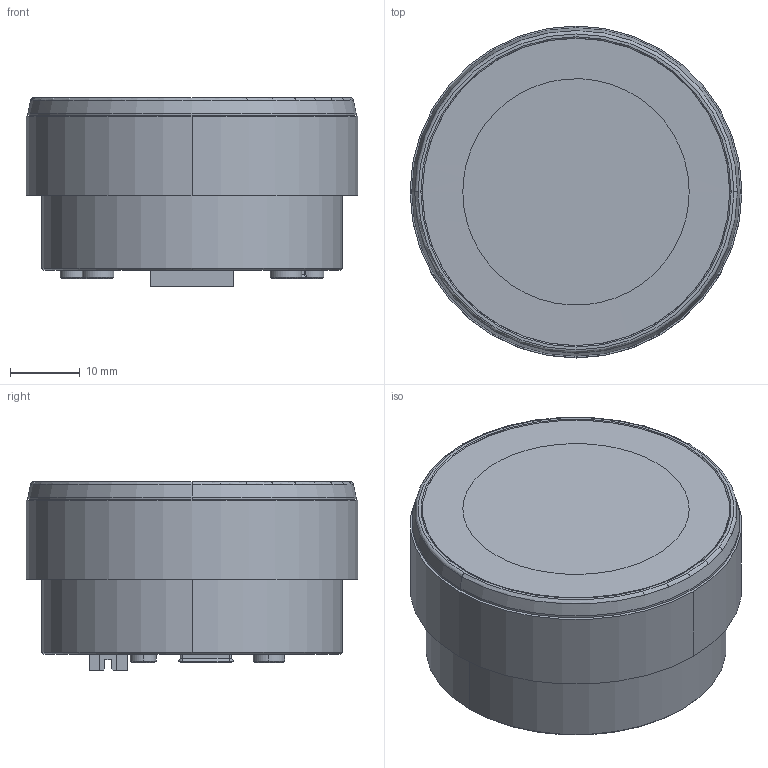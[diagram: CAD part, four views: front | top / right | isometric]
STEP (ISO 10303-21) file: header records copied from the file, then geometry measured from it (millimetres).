
FILE_DESCRIPTION((''),'2;1');
FILE_NAME('3D-DMG24240C013-13WN','2023-02-27T',('Administrator'),(''),'PRO/ENGINEER BY PARAMETRIC TECHNOLOGY CORPORATION, 2008380','PRO/ENGINEER BY PARAMETRIC TECHNOLOGY CORPORATION, 2008380','');
FILE_SCHEMA(('CONFIG_CONTROL_DESIGN'));
Length unit declared in the file: millimetre
Products named in the file (1): 3D-DMG24240C013-13WN
Bounding box: 47.5 x 47.5 x 27 mm (x, y, z)
Volume: 27395.9 mm3; surface area: 14413.8 mm2
Topology: 1 solids, 4 shells, 457 faces, 1187 edges, 776 vertices
Faces by surface type: plane 245, cylinder 118, cone 90, torus 4
Entity records: 14341 total; most frequent: CARTESIAN_POINT 2693, DIRECTION 2492, ORIENTED_EDGE 2366, EDGE_CURVE 1183, AXIS2_PLACEMENT_3D 894, VERTEX_POINT 770, VECTOR 704, LINE 704
